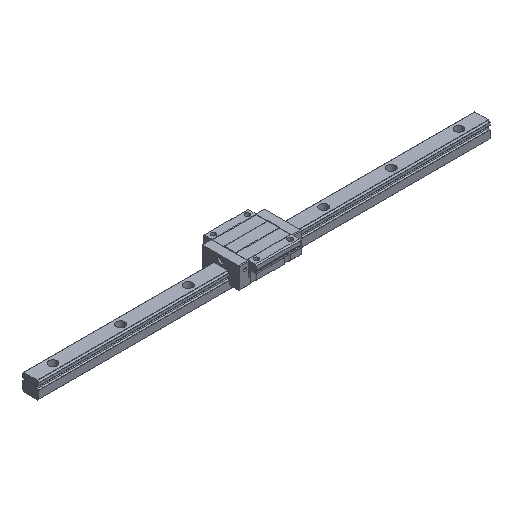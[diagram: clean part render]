
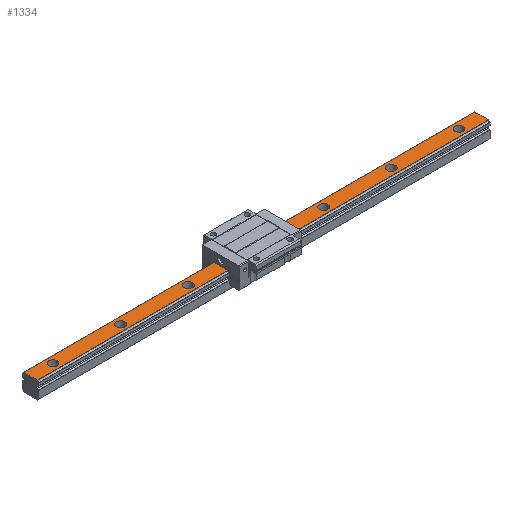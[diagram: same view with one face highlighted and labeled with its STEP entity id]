
A CAD part, isometric view. The second image highlights one B-rep face of the part: STEP entity #1334.
In plain terms, the highlighted planar face has unit normal (0, 0, 1).
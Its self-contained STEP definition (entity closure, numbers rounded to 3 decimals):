
#137=CARTESIAN_POINT('',(383.75,0.,15.0));
#138=VERTEX_POINT('',#137);
#139=CARTESIAN_POINT('',(380.0,0.,15.0));
#140=DIRECTION('',(0.0,0.0,-1.0));
#141=DIRECTION('',(1.0,0.0,0.0));
#142=AXIS2_PLACEMENT_3D('',#139,#140,#141);
#143=CIRCLE('',#142,3.75);
#144=EDGE_CURVE('',#138,#138,#143,.T.);
#247=CARTESIAN_POINT('',(323.75,0.,15.0));
#248=VERTEX_POINT('',#247);
#249=CARTESIAN_POINT('',(320.0,0.,15.0));
#250=DIRECTION('',(0.0,0.0,-1.0));
#251=DIRECTION('',(1.0,0.0,0.0));
#252=AXIS2_PLACEMENT_3D('',#249,#250,#251);
#253=CIRCLE('',#252,3.75);
#254=EDGE_CURVE('',#248,#248,#253,.T.);
#357=CARTESIAN_POINT('',(263.75,0.,15.0));
#358=VERTEX_POINT('',#357);
#359=CARTESIAN_POINT('',(260.0,0.,15.0));
#360=DIRECTION('',(0.0,0.0,-1.0));
#361=DIRECTION('',(1.0,0.0,0.0));
#362=AXIS2_PLACEMENT_3D('',#359,#360,#361);
#363=CIRCLE('',#362,3.75);
#364=EDGE_CURVE('',#358,#358,#363,.T.);
#467=CARTESIAN_POINT('',(203.75,0.,15.0));
#468=VERTEX_POINT('',#467);
#469=CARTESIAN_POINT('',(200.0,0.,15.0));
#470=DIRECTION('',(0.0,0.0,-1.0));
#471=DIRECTION('',(1.0,0.0,0.0));
#472=AXIS2_PLACEMENT_3D('',#469,#470,#471);
#473=CIRCLE('',#472,3.75);
#474=EDGE_CURVE('',#468,#468,#473,.T.);
#577=CARTESIAN_POINT('',(143.75,0.,15.0));
#578=VERTEX_POINT('',#577);
#579=CARTESIAN_POINT('',(140.0,0.,15.0));
#580=DIRECTION('',(0.0,0.0,-1.0));
#581=DIRECTION('',(1.0,0.0,0.0));
#582=AXIS2_PLACEMENT_3D('',#579,#580,#581);
#583=CIRCLE('',#582,3.75);
#584=EDGE_CURVE('',#578,#578,#583,.T.);
#687=CARTESIAN_POINT('',(83.75,0.,15.0));
#688=VERTEX_POINT('',#687);
#689=CARTESIAN_POINT('',(80.0,0.,15.0));
#690=DIRECTION('',(0.0,0.0,-1.0));
#691=DIRECTION('',(1.0,0.0,0.0));
#692=AXIS2_PLACEMENT_3D('',#689,#690,#691);
#693=CIRCLE('',#692,3.75);
#694=EDGE_CURVE('',#688,#688,#693,.T.);
#797=CARTESIAN_POINT('',(23.75,0.,15.0));
#798=VERTEX_POINT('',#797);
#799=CARTESIAN_POINT('',(20.0,0.,15.0));
#800=DIRECTION('',(0.0,0.0,-1.0));
#801=DIRECTION('',(1.0,0.0,0.0));
#802=AXIS2_PLACEMENT_3D('',#799,#800,#801);
#803=CIRCLE('',#802,3.75);
#804=EDGE_CURVE('',#798,#798,#803,.T.);
#1257=CARTESIAN_POINT('',(400.0,-5.956,15.0));
#1258=VERTEX_POINT('',#1257);
#1265=CARTESIAN_POINT('',(0.0,-5.956,15.0));
#1266=VERTEX_POINT('',#1265);
#1267=CARTESIAN_POINT('',(0.0,-5.956,15.0));
#1268=DIRECTION('',(1.0,0.0,0.0));
#1269=VECTOR('',#1268,400.0);
#1270=LINE('',#1267,#1269);
#1271=EDGE_CURVE('',#1266,#1258,#1270,.T.);
#1283=CARTESIAN_POINT('',(0.0,-5.956,15.0));
#1284=DIRECTION('',(0.0,0.0,1.0));
#1285=DIRECTION('',(1.0,0.0,0.0));
#1286=AXIS2_PLACEMENT_3D('',#1283,#1284,#1285);
#1287=PLANE('',#1286);
#1288=CARTESIAN_POINT('',(400.0,5.956,15.0));
#1289=VERTEX_POINT('',#1288);
#1290=CARTESIAN_POINT('',(400.0,-5.956,15.0));
#1291=DIRECTION('',(0.0,1.0,0.0));
#1292=VECTOR('',#1291,11.913);
#1293=LINE('',#1290,#1292);
#1294=EDGE_CURVE('',#1258,#1289,#1293,.T.);
#1295=ORIENTED_EDGE('',*,*,#1294,.T.);
#1296=CARTESIAN_POINT('',(0.0,5.956,15.0));
#1297=VERTEX_POINT('',#1296);
#1298=CARTESIAN_POINT('',(0.0,5.956,15.0));
#1299=DIRECTION('',(1.0,0.0,0.0));
#1300=VECTOR('',#1299,400.0);
#1301=LINE('',#1298,#1300);
#1302=EDGE_CURVE('',#1297,#1289,#1301,.T.);
#1303=ORIENTED_EDGE('',*,*,#1302,.F.);
#1304=CARTESIAN_POINT('',(0.0,5.956,15.0));
#1305=DIRECTION('',(0.0,-1.0,0.0));
#1306=VECTOR('',#1305,11.913);
#1307=LINE('',#1304,#1306);
#1308=EDGE_CURVE('',#1297,#1266,#1307,.T.);
#1309=ORIENTED_EDGE('',*,*,#1308,.T.);
#1310=ORIENTED_EDGE('',*,*,#1271,.T.);
#1311=EDGE_LOOP('',(#1295,#1303,#1309,#1310));
#1312=FACE_OUTER_BOUND('',#1311,.T.);
#1313=ORIENTED_EDGE('',*,*,#144,.T.);
#1314=EDGE_LOOP('',(#1313));
#1315=FACE_BOUND('',#1314,.T.);
#1316=ORIENTED_EDGE('',*,*,#254,.T.);
#1317=EDGE_LOOP('',(#1316));
#1318=FACE_BOUND('',#1317,.T.);
#1319=ORIENTED_EDGE('',*,*,#364,.T.);
#1320=EDGE_LOOP('',(#1319));
#1321=FACE_BOUND('',#1320,.T.);
#1322=ORIENTED_EDGE('',*,*,#474,.T.);
#1323=EDGE_LOOP('',(#1322));
#1324=FACE_BOUND('',#1323,.T.);
#1325=ORIENTED_EDGE('',*,*,#584,.T.);
#1326=EDGE_LOOP('',(#1325));
#1327=FACE_BOUND('',#1326,.T.);
#1328=ORIENTED_EDGE('',*,*,#694,.T.);
#1329=EDGE_LOOP('',(#1328));
#1330=FACE_BOUND('',#1329,.T.);
#1331=ORIENTED_EDGE('',*,*,#804,.T.);
#1332=EDGE_LOOP('',(#1331));
#1333=FACE_BOUND('',#1332,.T.);
#1334=ADVANCED_FACE('',(#1312,#1315,#1318,#1321,#1324,#1327,#1330,#1333),#1287,.T.);
